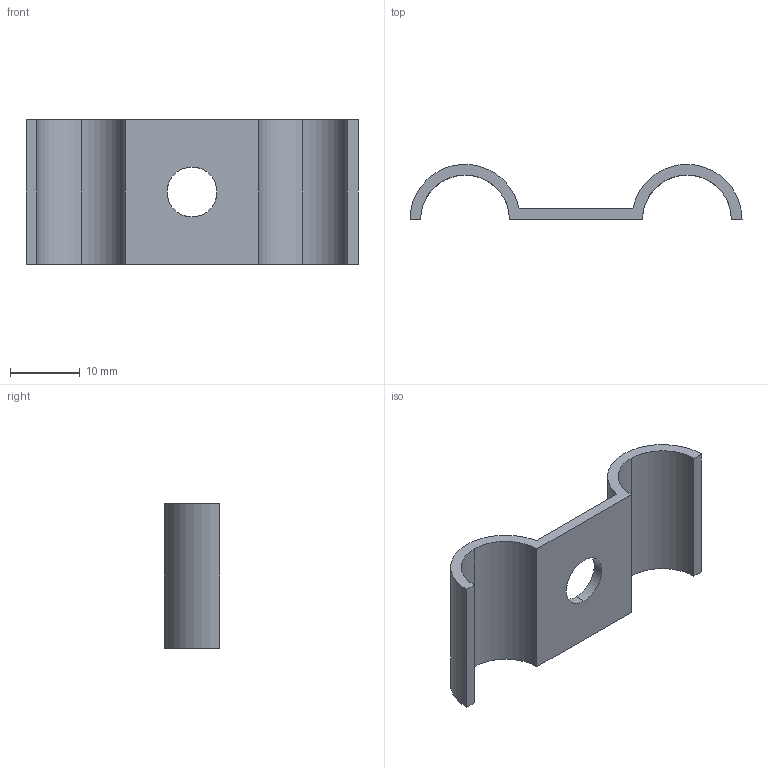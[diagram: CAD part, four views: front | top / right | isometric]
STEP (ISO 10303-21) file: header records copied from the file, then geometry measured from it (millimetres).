
FILE_DESCRIPTION(('TurboCAD Mac Pro'),'Build 980');
FILE_NAME('P6807.stp',' ',(''),(''),'ACIS Interop','IMSI','TurboCAD Mac Pro BY IMSI, INCORPORATED');
FILE_SCHEMA(('automotive_design'));
Length unit declared in the file: inch
Products named in the file (1): 1
Bounding box: 47.47 x 7.87 x 20.64 mm (x, y, z)
Volume: 1848.8 mm3; surface area: 2711.4 mm2
Topology: 1 solids, 1 shells, 18 faces, 48 edges, 32 vertices
Faces by surface type: bspline 12, plane 6
Entity records: 796 total; most frequent: CARTESIAN_POINT 255, ORIENTED_EDGE 96, EDGE_CURVE 48, DIRECTION 38, VERTEX_POINT 32, B_SPLINE_CURVE_WITH_KNOTS 24, LINE 24, VECTOR 24
